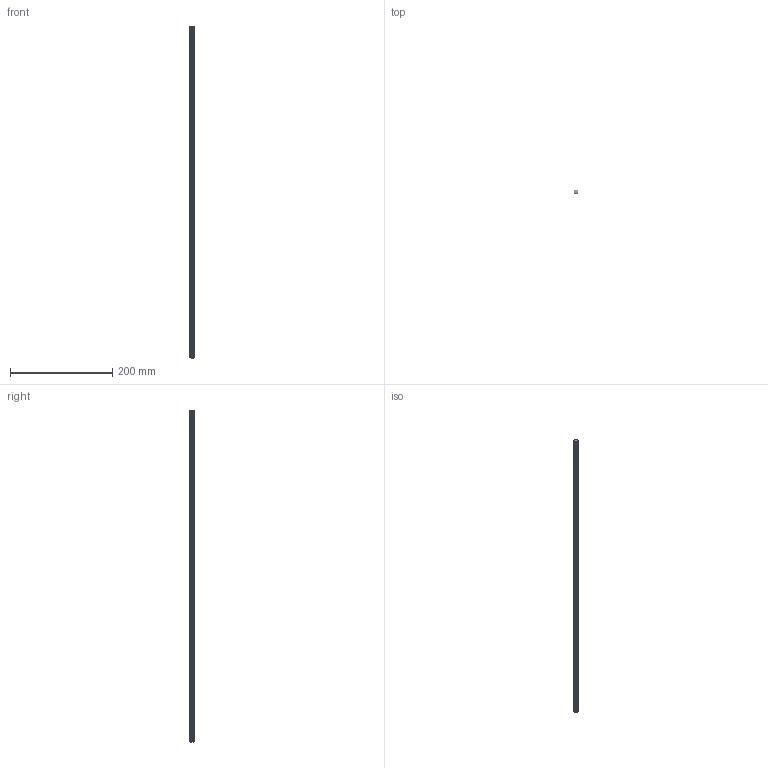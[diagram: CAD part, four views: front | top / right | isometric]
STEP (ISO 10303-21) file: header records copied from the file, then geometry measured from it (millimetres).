
FILE_DESCRIPTION (( 'STEP AP203' ), '1' );
FILE_NAME ('3501-0804-0650.STEP', '2018-05-11T21:54:59', ( '' ), ( '' ), 'SwSTEP 2.0', 'SolidWorks 2016', '' );
FILE_SCHEMA (( 'CONFIG_CONTROL_DESIGN' ));
Length unit declared in the file: millimetre
Products named in the file (1): 3501-0804-0650
Bounding box: 8 x 8 x 650 mm (x, y, z)
Volume: 27046.3 mm3; surface area: 23585.4 mm2
Topology: 1 solids, 1 shells, 678 faces, 2028 edges, 1352 vertices
Faces by surface type: cylinder 654, bspline 12, cone 10, plane 2
Entity records: 87361 total; most frequent: CARTESIAN_POINT 73073, ORIENTED_EDGE 4056, EDGE_CURVE 2028, DIRECTION 2022, VERTEX_POINT 1352, AXIS2_PLACEMENT_3D 685, EDGE_LOOP 678, ADVANCED_FACE 678
